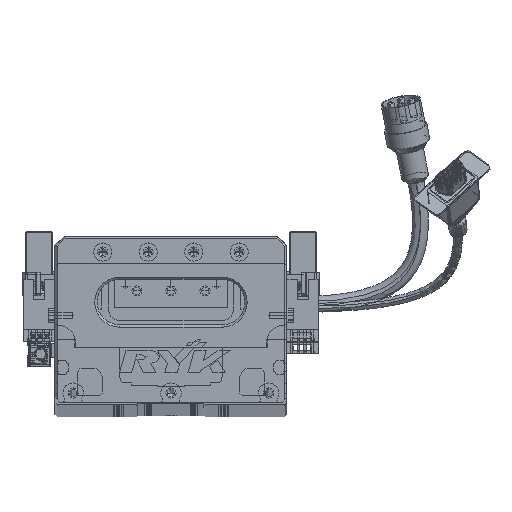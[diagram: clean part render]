
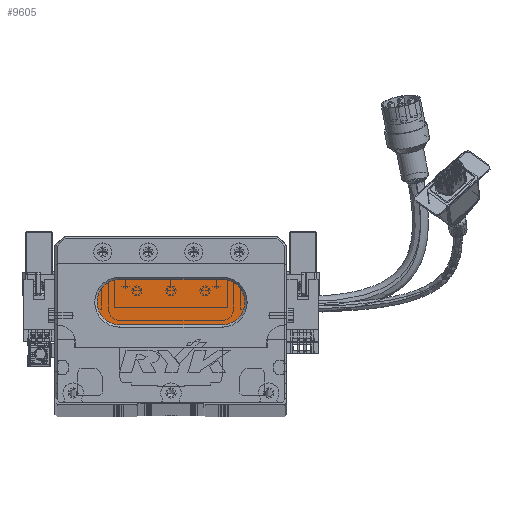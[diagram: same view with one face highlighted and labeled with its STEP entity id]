
A CAD part, top view. The second image highlights one B-rep face of the part: STEP entity #9605.
In plain terms, the highlighted planar face has unit normal (0, 0, 1) as drawn and (0, 0, -1) by its records, which use the part's own axes.
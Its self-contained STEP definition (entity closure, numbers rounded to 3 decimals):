
#853 = ORIENTED_EDGE ( 'NONE', *, *, #50925, .T. ) ;
#3289 = CARTESIAN_POINT ( 'NONE',  ( 73.5, 54., 13. ) ) ;
#5002 = DIRECTION ( 'NONE',  ( 0., 0., -1. ) ) ;
#9605 = ADVANCED_FACE ( 'NONE', ( #40385 ), #20582, .T. ) ;
#13673 = DIRECTION ( 'NONE',  ( 0., 0., -1. ) ) ;
#16591 = LINE ( 'NONE', #46287, #31247 ) ;
#16688 = VERTEX_POINT ( 'NONE', #70775 ) ;
#18023 = AXIS2_PLACEMENT_3D ( 'NONE', #76816, #5002, #76226 ) ;
#20475 = VERTEX_POINT ( 'NONE', #83705 ) ;
#20582 = PLANE ( 'NONE',  #69679 ) ;
#22317 = DIRECTION ( 'NONE',  ( -1., 0., 0. ) ) ;
#23594 = CARTESIAN_POINT ( 'NONE',  ( 73.5, 54., 13. ) ) ;
#24941 = EDGE_CURVE ( 'NONE', #62236, #55162, #43077, .T. ) ;
#26196 = CARTESIAN_POINT ( 'NONE',  ( 18.5, 44., 13. ) ) ;
#31247 = VECTOR ( 'NONE', #74499, 1000. ) ;
#33702 = DIRECTION ( 'NONE',  ( -1., 0., 0. ) ) ;
#35971 = AXIS2_PLACEMENT_3D ( 'NONE', #50856, #71249, #22317 ) ;
#39383 = CARTESIAN_POINT ( 'NONE',  ( 28.5, 54., 13. ) ) ;
#39481 = ORIENTED_EDGE ( 'NONE', *, *, #88538, .T. ) ;
#40385 = FACE_OUTER_BOUND ( 'NONE', #83741, .T. ) ;
#41217 = CARTESIAN_POINT ( 'NONE',  ( 28.5, 44., 13. ) ) ;
#42240 = CARTESIAN_POINT ( 'NONE',  ( 73.5, 44., 13. ) ) ;
#43077 = LINE ( 'NONE', #23594, #75655 ) ;
#43752 = EDGE_CURVE ( 'NONE', #58057, #62236, #82245, .T. ) ;
#46287 = CARTESIAN_POINT ( 'NONE',  ( 73.5, 34., 13. ) ) ;
#48532 = DIRECTION ( 'NONE',  ( -1., 0., 0. ) ) ;
#49351 = DIRECTION ( 'NONE',  ( 0., 0., -1. ) ) ;
#49799 = ORIENTED_EDGE ( 'NONE', *, *, #24941, .T. ) ;
#50769 = CIRCLE ( 'NONE', #91967, 10. ) ;
#50856 = CARTESIAN_POINT ( 'NONE',  ( 28.5, 44., 13. ) ) ;
#50925 = EDGE_CURVE ( 'NONE', #16688, #20475, #16591, .T. ) ;
#55162 = VERTEX_POINT ( 'NONE', #3289 ) ;
#55322 = EDGE_CURVE ( 'NONE', #20475, #58057, #50769, .T. ) ;
#58057 = VERTEX_POINT ( 'NONE', #26196 ) ;
#59892 = CIRCLE ( 'NONE', #18023, 10. ) ;
#62236 = VERTEX_POINT ( 'NONE', #39383 ) ;
#66859 = DIRECTION ( 'NONE',  ( 1., 0., 0. ) ) ;
#69679 = AXIS2_PLACEMENT_3D ( 'NONE', #42240, #13673, #48532 ) ;
#70775 = CARTESIAN_POINT ( 'NONE',  ( 73.5, 34., 13. ) ) ;
#71249 = DIRECTION ( 'NONE',  ( 0., 0., -1. ) ) ;
#74499 = DIRECTION ( 'NONE',  ( -1., 0., 0. ) ) ;
#75655 = VECTOR ( 'NONE', #66859, 1000. ) ;
#76226 = DIRECTION ( 'NONE',  ( -1., 0., 0. ) ) ;
#76231 = ORIENTED_EDGE ( 'NONE', *, *, #55322, .T. ) ;
#76816 = CARTESIAN_POINT ( 'NONE',  ( 73.5, 44., 13. ) ) ;
#82245 = CIRCLE ( 'NONE', #35971, 10. ) ;
#82421 = ORIENTED_EDGE ( 'NONE', *, *, #43752, .T. ) ;
#83705 = CARTESIAN_POINT ( 'NONE',  ( 28.5, 34., 13. ) ) ;
#83741 = EDGE_LOOP ( 'NONE', ( #39481, #853, #76231, #82421, #49799 ) ) ;
#88538 = EDGE_CURVE ( 'NONE', #55162, #16688, #59892, .T. ) ;
#91967 = AXIS2_PLACEMENT_3D ( 'NONE', #41217, #49351, #33702 ) ;
